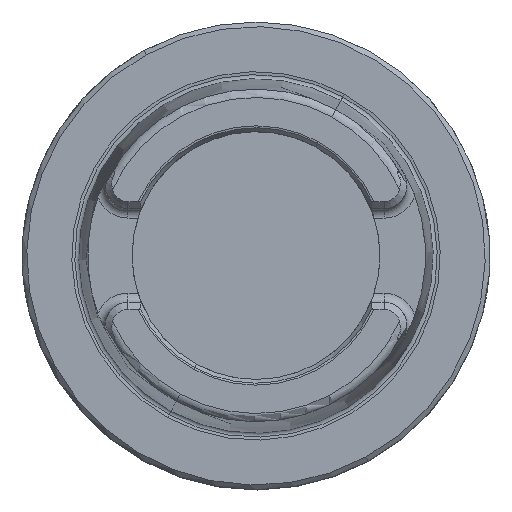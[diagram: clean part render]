
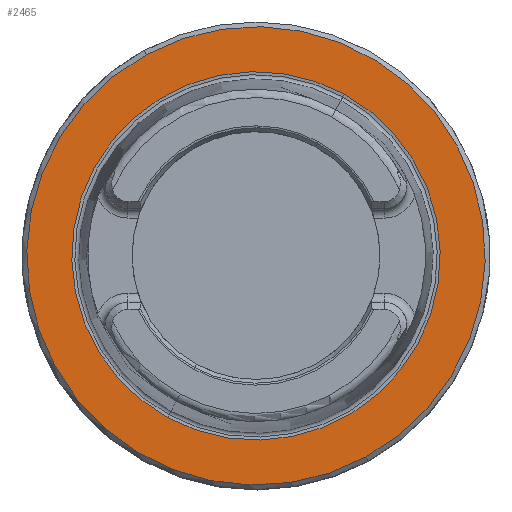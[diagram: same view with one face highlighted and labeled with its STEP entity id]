
A CAD part, top view. The second image highlights one B-rep face of the part: STEP entity #2465.
In plain terms, the highlighted planar face has unit normal (0, 0, 1).
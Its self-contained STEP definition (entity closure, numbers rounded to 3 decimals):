
#2407=AXIS2_PLACEMENT_3D('Circle Axis2P3D',#2405,#2406,$) ;
#2427=AXIS2_PLACEMENT_3D('Circle Axis2P3D',#2425,#2426,$) ;
#2441=AXIS2_PLACEMENT_3D('Plane Axis2P3D',#2438,#2439,#2440) ;
#2449=AXIS2_PLACEMENT_3D('Circle Axis2P3D',#2447,#2448,$) ;
#2458=AXIS2_PLACEMENT_3D('Circle Axis2P3D',#2456,#2457,$) ;
#2402=CARTESIAN_POINT('Vertex',(23.492,-43.002,0.)) ;
#2405=CARTESIAN_POINT('Axis2P3D Location',(0.,0.,0.)) ;
#2409=CARTESIAN_POINT('Vertex',(-23.492,43.002,0.)) ;
#2425=CARTESIAN_POINT('Axis2P3D Location',(0.,0.,0.)) ;
#2438=CARTESIAN_POINT('Axis2P3D Location',(0.,-38.285,0.)) ;
#2447=CARTESIAN_POINT('Axis2P3D Location',(0.,0.,0.)) ;
#2451=CARTESIAN_POINT('Vertex',(18.88,34.56,0.)) ;
#2453=CARTESIAN_POINT('Vertex',(-18.88,-34.56,0.)) ;
#2456=CARTESIAN_POINT('Axis2P3D Location',(0.,0.,0.)) ;
#2406=DIRECTION('Axis2P3D Direction',(0.,0.,-1.)) ;
#2426=DIRECTION('Axis2P3D Direction',(0.,0.,-1.)) ;
#2439=DIRECTION('Axis2P3D Direction',(0.,0.,-1.)) ;
#2440=DIRECTION('Axis2P3D XDirection',(-1.,0.,0.)) ;
#2448=DIRECTION('Axis2P3D Direction',(0.,0.,-1.)) ;
#2457=DIRECTION('Axis2P3D Direction',(0.,0.,-1.)) ;
#2444=ORIENTED_EDGE('',*,*,#2411,.F.) ;
#2445=ORIENTED_EDGE('',*,*,#2429,.F.) ;
#2462=ORIENTED_EDGE('',*,*,#2455,.T.) ;
#2463=ORIENTED_EDGE('',*,*,#2460,.T.) ;
#2464=FACE_BOUND('',#2461,.T.) ;
#2465=ADVANCED_FACE('NO_CUT',(#2446,#2464),#2442,.F.) ;
#2408=CIRCLE('generated circle',#2407,49.) ;
#2428=CIRCLE('generated circle',#2427,49.) ;
#2450=CIRCLE('generated circle',#2449,39.381) ;
#2459=CIRCLE('generated circle',#2458,39.381) ;
#2411=EDGE_CURVE('',#2403,#2410,#2408,.T.) ;
#2429=EDGE_CURVE('',#2410,#2403,#2428,.T.) ;
#2455=EDGE_CURVE('',#2452,#2454,#2450,.T.) ;
#2460=EDGE_CURVE('',#2454,#2452,#2459,.T.) ;
#2443=EDGE_LOOP('',(#2444,#2445)) ;
#2461=EDGE_LOOP('',(#2462,#2463)) ;
#2446=FACE_OUTER_BOUND('',#2443,.T.) ;
#2442=PLANE('',#2441) ;
#2403=VERTEX_POINT('',#2402) ;
#2410=VERTEX_POINT('',#2409) ;
#2452=VERTEX_POINT('',#2451) ;
#2454=VERTEX_POINT('',#2453) ;
